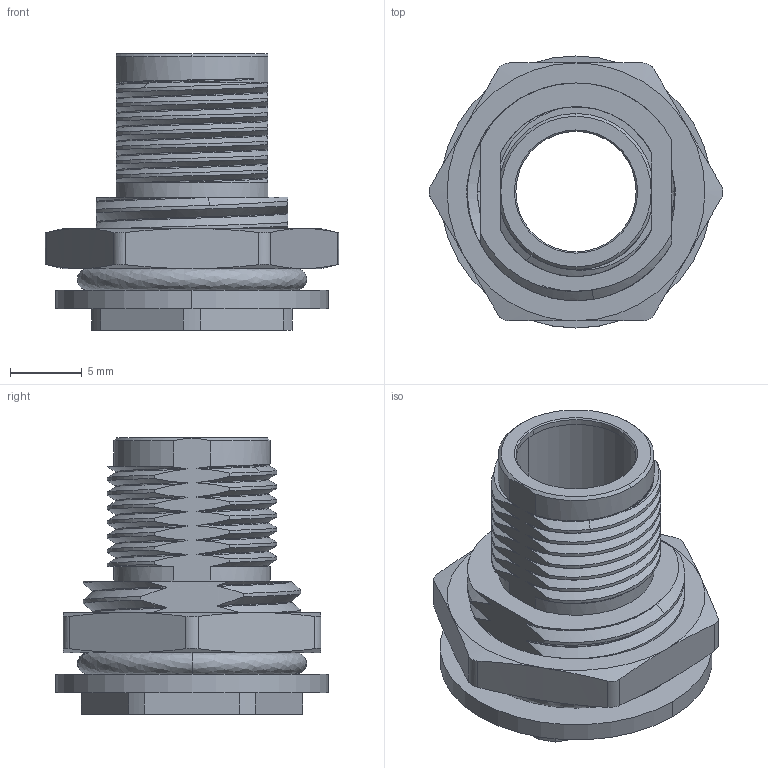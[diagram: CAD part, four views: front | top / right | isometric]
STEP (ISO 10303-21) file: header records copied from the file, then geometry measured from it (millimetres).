
FILE_DESCRIPTION (( 'STEP AP203' ), '1' );
FILE_NAME ('862-M-FM-SHELL.STEP', '2025-09-23T17:18:41', ( '' ), ( '' ), 'SwSTEP 2.0', 'SolidWorks 2020', '' );
FILE_SCHEMA (( 'CONFIG_CONTROL_DESIGN' ));
Length unit declared in the file: millimetre
Products named in the file (1): 862-M-FM-SHELL
Bounding box: 20.5 x 19 x 19.3 mm (x, y, z)
Volume: 1594.9 mm3; surface area: 2593.3 mm2
Topology: 1 solids, 1 shells, 204 faces, 627 edges, 421 vertices
Faces by surface type: bspline 92, cylinder 54, plane 36, cone 22
Entity records: 19789 total; most frequent: CARTESIAN_POINT 15228, ORIENTED_EDGE 1254, EDGE_CURVE 627, B_SPLINE_CURVE_WITH_KNOTS 466, DIRECTION 449, VERTEX_POINT 421, EDGE_LOOP 212, ADVANCED_FACE 204
